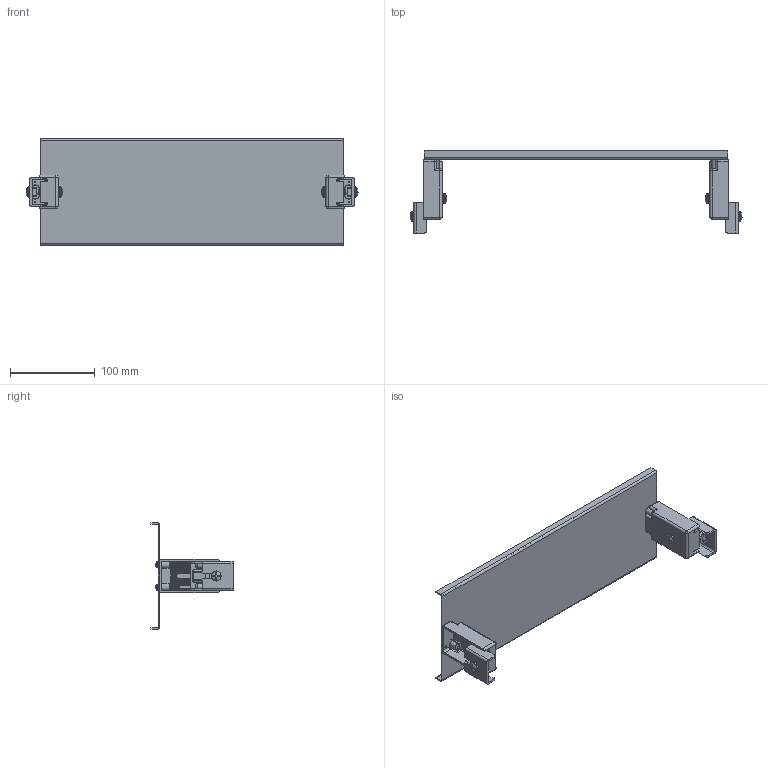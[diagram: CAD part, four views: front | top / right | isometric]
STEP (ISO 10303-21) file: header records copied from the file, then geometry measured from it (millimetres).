
FILE_DESCRIPTION(/* description */ (''),/* implementation_level */ '2;1');
FILE_NAME(/* name */ '4005084.stp',/* time_stamp */ '2016-09-26T10:42:03+02:00',/* author */ (''),/* organization */ (''),/* preprocessor_version */ 'ST-DEVELOPER v16',/* originating_system */ 'SIEMENS PLM Software NX 11.0',/* authorisation */ '');
FILE_SCHEMA (('AUTOMOTIVE_DESIGN { 1 0 10303 214 3 1 1 1 }'));
Length unit declared in the file: millimetre
Products named in the file (1): 4005084_LINKEDEXT_jt
Bounding box: 392.73 x 97.1 x 126 mm (x, y, z)
Surface area: 127639.2 mm2 (no closed solid volume)
Topology: 0 solids, 53 shells, 398 faces, 1666 edges, 1270 vertices
Faces by surface type: plane 214, cylinder 118, sphere 32, torus 26, bspline 4, cone 4
Full cylindrical faces by diameter (mm): 3 x4, 6 x2, 7.2 x4, 12 x4
Entity records: 20486 total; most frequent: CARTESIAN_POINT 4465, DIRECTION 2788, ORIENTED_EDGE 2118, EDGE_CURVE 1596, VERTEX_POINT 1248, LINE 1006, VECTOR 1006, AXIS2_PLACEMENT_3D 891
